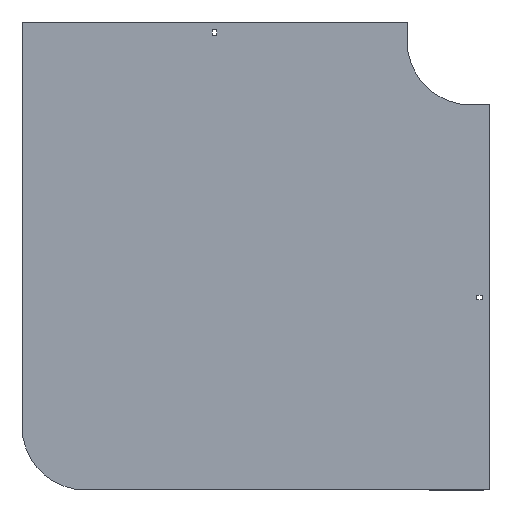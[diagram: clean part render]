
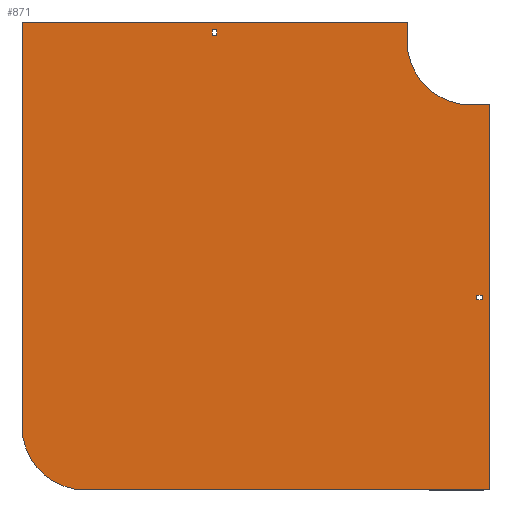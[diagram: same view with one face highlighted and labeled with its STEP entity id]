
A CAD part, front view. The second image highlights one B-rep face of the part: STEP entity #871.
In plain terms, the highlighted planar face has unit normal (0, -1, 0).
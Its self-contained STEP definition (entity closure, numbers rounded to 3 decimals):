
#11 = DIRECTION ( 'NONE',  ( 0., 0., -1. ) ) ;
#19 = DIRECTION ( 'NONE',  ( 0., 0., 1. ) ) ;
#25 = ORIENTED_EDGE ( 'NONE', *, *, #666, .F. ) ;
#27 = ORIENTED_EDGE ( 'NONE', *, *, #1171, .F. ) ;
#39 = CARTESIAN_POINT ( 'NONE',  ( -604., 0., -704. ) ) ;
#54 = AXIS2_PLACEMENT_3D ( 'NONE', #432, #993, #11 ) ;
#55 = ORIENTED_EDGE ( 'NONE', *, *, #589, .F. ) ;
#100 = CARTESIAN_POINT ( 'NONE',  ( 30., 0., -704. ) ) ;
#105 = DIRECTION ( 'NONE',  ( -1., 0., 0. ) ) ;
#110 = ORIENTED_EDGE ( 'NONE', *, *, #827, .T. ) ;
#112 = FACE_OUTER_BOUND ( 'NONE', #510, .T. ) ;
#116 = EDGE_CURVE ( 'NONE', #1327, #1283, #1060, .T. ) ;
#138 = CARTESIAN_POINT ( 'NONE',  ( 18., 0., -398.75 ) ) ;
#146 = CIRCLE ( 'NONE', #932, 100. ) ;
#154 = CARTESIAN_POINT ( 'NONE',  ( 0., 0., -100. ) ) ;
#165 = DIRECTION ( 'NONE',  ( 1., 0., 0. ) ) ;
#200 = CARTESIAN_POINT ( 'NONE',  ( -704., 0., -604. ) ) ;
#223 = LINE ( 'NONE', #200, #730 ) ;
#231 = FACE_BOUND ( 'NONE', #1188, .T. ) ;
#267 = EDGE_CURVE ( 'NONE', #481, #1274, #1088, .T. ) ;
#269 = LINE ( 'NONE', #1128, #524 ) ;
#274 = EDGE_CURVE ( 'NONE', #1068, #781, #146, .T. ) ;
#282 = CARTESIAN_POINT ( 'NONE',  ( -704., 0., 30. ) ) ;
#284 = ORIENTED_EDGE ( 'NONE', *, *, #1028, .F. ) ;
#288 = VECTOR ( 'NONE', #874, 1000. ) ;
#292 = CARTESIAN_POINT ( 'NONE',  ( -398.75, 0., 18. ) ) ;
#298 = DIRECTION ( 'NONE',  ( 0., 0., 1. ) ) ;
#302 = VERTEX_POINT ( 'NONE', #154 ) ;
#305 = VECTOR ( 'NONE', #769, 1000. ) ;
#312 = ORIENTED_EDGE ( 'NONE', *, *, #528, .T. ) ;
#327 = CARTESIAN_POINT ( 'NONE',  ( 18., 0., -405.25 ) ) ;
#341 = ORIENTED_EDGE ( 'NONE', *, *, #616, .F. ) ;
#349 = CARTESIAN_POINT ( 'NONE',  ( -704., 0., 30. ) ) ;
#363 = CARTESIAN_POINT ( 'NONE',  ( 0., 0., 0. ) ) ;
#370 = EDGE_CURVE ( 'NONE', #302, #869, #1356, .T. ) ;
#374 = CARTESIAN_POINT ( 'NONE',  ( 30., 0., -100. ) ) ;
#396 = CARTESIAN_POINT ( 'NONE',  ( 9., 0., -405.25 ) ) ;
#397 = LINE ( 'NONE', #535, #1326 ) ;
#401 = ORIENTED_EDGE ( 'NONE', *, *, #888, .T. ) ;
#406 = CIRCLE ( 'NONE', #681, 100. ) ;
#407 = VERTEX_POINT ( 'NONE', #1130 ) ;
#410 = EDGE_CURVE ( 'NONE', #1127, #302, #406, .T. ) ;
#420 = ORIENTED_EDGE ( 'NONE', *, *, #274, .F. ) ;
#423 = FACE_BOUND ( 'NONE', #1081, .T. ) ;
#432 = CARTESIAN_POINT ( 'NONE',  ( 0., 0., 0. ) ) ;
#434 = CARTESIAN_POINT ( 'NONE',  ( -100., 0., 0. ) ) ;
#448 = VECTOR ( 'NONE', #1378, 1000. ) ;
#456 = CARTESIAN_POINT ( 'NONE',  ( -405.25, 0., 18. ) ) ;
#477 = CARTESIAN_POINT ( 'NONE',  ( -704., 0., -604. ) ) ;
#481 = VERTEX_POINT ( 'NONE', #292 ) ;
#495 = VECTOR ( 'NONE', #165, 1000. ) ;
#503 = CARTESIAN_POINT ( 'NONE',  ( 0., 0., -100. ) ) ;
#510 = EDGE_LOOP ( 'NONE', ( #745, #341, #420, #1384, #284, #1272, #1367, #25 ) ) ;
#520 = LINE ( 'NONE', #627, #1152 ) ;
#522 = CARTESIAN_POINT ( 'NONE',  ( 9., 0., -405.25 ) ) ;
#524 = VECTOR ( 'NONE', #591, 1000. ) ;
#528 = EDGE_CURVE ( 'NONE', #826, #1176, #520, .T. ) ;
#535 = CARTESIAN_POINT ( 'NONE',  ( 9., 0., -405.25 ) ) ;
#560 = ORIENTED_EDGE ( 'NONE', *, *, #853, .F. ) ;
#589 = EDGE_CURVE ( 'NONE', #716, #1058, #776, .T. ) ;
#591 = DIRECTION ( 'NONE',  ( 0., 0., -1. ) ) ;
#598 = CARTESIAN_POINT ( 'NONE',  ( -398.75, 0., 9. ) ) ;
#600 = DIRECTION ( 'NONE',  ( 1., 0., 0. ) ) ;
#616 = EDGE_CURVE ( 'NONE', #781, #1093, #223, .T. ) ;
#627 = CARTESIAN_POINT ( 'NONE',  ( -405.25, 0., 9. ) ) ;
#636 = VECTOR ( 'NONE', #904, 1000. ) ;
#653 = DIRECTION ( 'NONE',  ( -1., 0., 0. ) ) ;
#654 = DIRECTION ( 'NONE',  ( 1., 0., 0. ) ) ;
#655 = CARTESIAN_POINT ( 'NONE',  ( -398.75, 0., 9. ) ) ;
#662 = LINE ( 'NONE', #967, #796 ) ;
#666 = EDGE_CURVE ( 'NONE', #407, #1127, #269, .T. ) ;
#677 = CARTESIAN_POINT ( 'NONE',  ( -405.25, 0., 9. ) ) ;
#681 = AXIS2_PLACEMENT_3D ( 'NONE', #363, #923, #1235 ) ;
#707 = CARTESIAN_POINT ( 'NONE',  ( 18., 0., -405.25 ) ) ;
#708 = LINE ( 'NONE', #374, #636 ) ;
#716 = VERTEX_POINT ( 'NONE', #138 ) ;
#730 = VECTOR ( 'NONE', #1095, 1000. ) ;
#745 = ORIENTED_EDGE ( 'NONE', *, *, #1278, .F. ) ;
#754 = CARTESIAN_POINT ( 'NONE',  ( 9., 0., -398.75 ) ) ;
#765 = VERTEX_POINT ( 'NONE', #1238 ) ;
#769 = DIRECTION ( 'NONE',  ( 0., 0., -1. ) ) ;
#776 = LINE ( 'NONE', #754, #909 ) ;
#781 = VERTEX_POINT ( 'NONE', #477 ) ;
#796 = VECTOR ( 'NONE', #105, 1000. ) ;
#799 = CARTESIAN_POINT ( 'NONE',  ( 9., 0., -398.75 ) ) ;
#826 = VERTEX_POINT ( 'NONE', #677 ) ;
#827 = EDGE_CURVE ( 'NONE', #1274, #826, #662, .T. ) ;
#853 = EDGE_CURVE ( 'NONE', #1283, #716, #976, .T. ) ;
#865 = LINE ( 'NONE', #456, #868 ) ;
#868 = VECTOR ( 'NONE', #654, 1000. ) ;
#869 = VERTEX_POINT ( 'NONE', #1398 ) ;
#871 = ADVANCED_FACE ( 'NONE', ( #231, #112, #423 ), #894, .T. ) ;
#874 = DIRECTION ( 'NONE',  ( 0., 0., 1. ) ) ;
#878 = ORIENTED_EDGE ( 'NONE', *, *, #267, .T. ) ;
#888 = EDGE_CURVE ( 'NONE', #1176, #481, #865, .T. ) ;
#894 = PLANE ( 'NONE',  #54 ) ;
#904 = DIRECTION ( 'NONE',  ( 0., 0., -1. ) ) ;
#909 = VECTOR ( 'NONE', #653, 1000. ) ;
#923 = DIRECTION ( 'NONE',  ( 0., -1., 0. ) ) ;
#932 = AXIS2_PLACEMENT_3D ( 'NONE', #1405, #1003, #19 ) ;
#947 = LINE ( 'NONE', #282, #495 ) ;
#963 = DIRECTION ( 'NONE',  ( 0., 0., -1. ) ) ;
#967 = CARTESIAN_POINT ( 'NONE',  ( -405.25, 0., 9. ) ) ;
#971 = CARTESIAN_POINT ( 'NONE',  ( -405.25, 0., 18. ) ) ;
#976 = LINE ( 'NONE', #327, #288 ) ;
#993 = DIRECTION ( 'NONE',  ( 0., -1., 0. ) ) ;
#1003 = DIRECTION ( 'NONE',  ( 0., 1., 0. ) ) ;
#1016 = VECTOR ( 'NONE', #1163, 1000. ) ;
#1028 = EDGE_CURVE ( 'NONE', #869, #765, #708, .T. ) ;
#1049 = ORIENTED_EDGE ( 'NONE', *, *, #116, .F. ) ;
#1058 = VERTEX_POINT ( 'NONE', #799 ) ;
#1060 = LINE ( 'NONE', #522, #1016 ) ;
#1068 = VERTEX_POINT ( 'NONE', #39 ) ;
#1081 = EDGE_LOOP ( 'NONE', ( #560, #1049, #27, #55 ) ) ;
#1088 = LINE ( 'NONE', #655, #305 ) ;
#1093 = VERTEX_POINT ( 'NONE', #349 ) ;
#1095 = DIRECTION ( 'NONE',  ( 0., 0., 1. ) ) ;
#1127 = VERTEX_POINT ( 'NONE', #434 ) ;
#1128 = CARTESIAN_POINT ( 'NONE',  ( -100., 0., 30. ) ) ;
#1130 = CARTESIAN_POINT ( 'NONE',  ( -100., 0., 30. ) ) ;
#1152 = VECTOR ( 'NONE', #298, 1000. ) ;
#1163 = DIRECTION ( 'NONE',  ( 1., 0., 0. ) ) ;
#1171 = EDGE_CURVE ( 'NONE', #1058, #1327, #397, .T. ) ;
#1176 = VERTEX_POINT ( 'NONE', #971 ) ;
#1177 = LINE ( 'NONE', #100, #448 ) ;
#1188 = EDGE_LOOP ( 'NONE', ( #312, #401, #878, #110 ) ) ;
#1235 = DIRECTION ( 'NONE',  ( 0., 0., -1. ) ) ;
#1238 = CARTESIAN_POINT ( 'NONE',  ( 30., 0., -704. ) ) ;
#1272 = ORIENTED_EDGE ( 'NONE', *, *, #370, .F. ) ;
#1274 = VERTEX_POINT ( 'NONE', #598 ) ;
#1278 = EDGE_CURVE ( 'NONE', #1093, #407, #947, .T. ) ;
#1283 = VERTEX_POINT ( 'NONE', #707 ) ;
#1326 = VECTOR ( 'NONE', #963, 1000. ) ;
#1327 = VERTEX_POINT ( 'NONE', #396 ) ;
#1356 = LINE ( 'NONE', #503, #1394 ) ;
#1367 = ORIENTED_EDGE ( 'NONE', *, *, #410, .F. ) ;
#1378 = DIRECTION ( 'NONE',  ( -1., 0., 0. ) ) ;
#1384 = ORIENTED_EDGE ( 'NONE', *, *, #1402, .F. ) ;
#1394 = VECTOR ( 'NONE', #600, 1000. ) ;
#1398 = CARTESIAN_POINT ( 'NONE',  ( 30., 0., -100. ) ) ;
#1402 = EDGE_CURVE ( 'NONE', #765, #1068, #1177, .T. ) ;
#1405 = CARTESIAN_POINT ( 'NONE',  ( -604., 0., -604. ) ) ;
